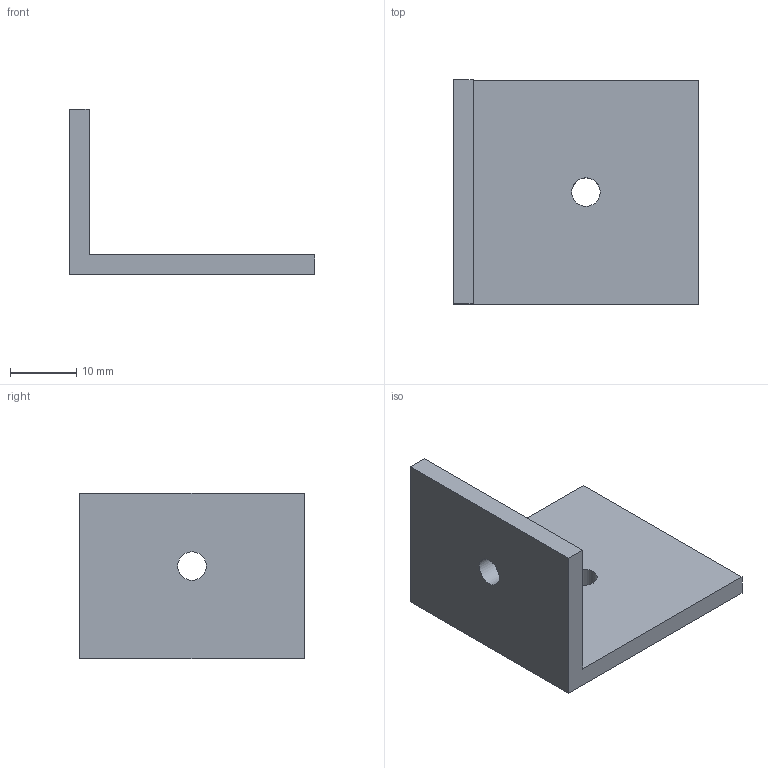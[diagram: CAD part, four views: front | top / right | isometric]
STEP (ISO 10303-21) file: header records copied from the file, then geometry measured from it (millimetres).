
FILE_DESCRIPTION(('Mechanical CAD reference from nasji.com'),'2;1');
FILE_NAME('NASJI.step','',(''),(''),'','NASJI distribution','');
FILE_SCHEMA(('AUTOMOTIVE_DESIGN { 1 0 10303 214 1 1 1 1 }'));
Length unit declared in the file: millimetre
Products named in the file (1): Open CASCADE STEP translator 7.8 153
Bounding box: 37.09 x 33.87 x 25 mm (x, y, z)
Volume: 5917 mm3; surface area: 4583.5 mm2
Topology: 1 solids, 1 shells, 10 faces, 24 edges, 16 vertices
Faces by surface type: plane 8, cylinder 2
Full cylindrical faces by diameter (mm): 4.3 x2
Entity records: 626 total; most frequent: CARTESIAN_POINT 113, DIRECTION 94, LINE 62, VECTOR 62, ORIENTED_EDGE 48, PCURVE 48, DEFINITIONAL_REPRESENTATION 48, EDGE_CURVE 24
